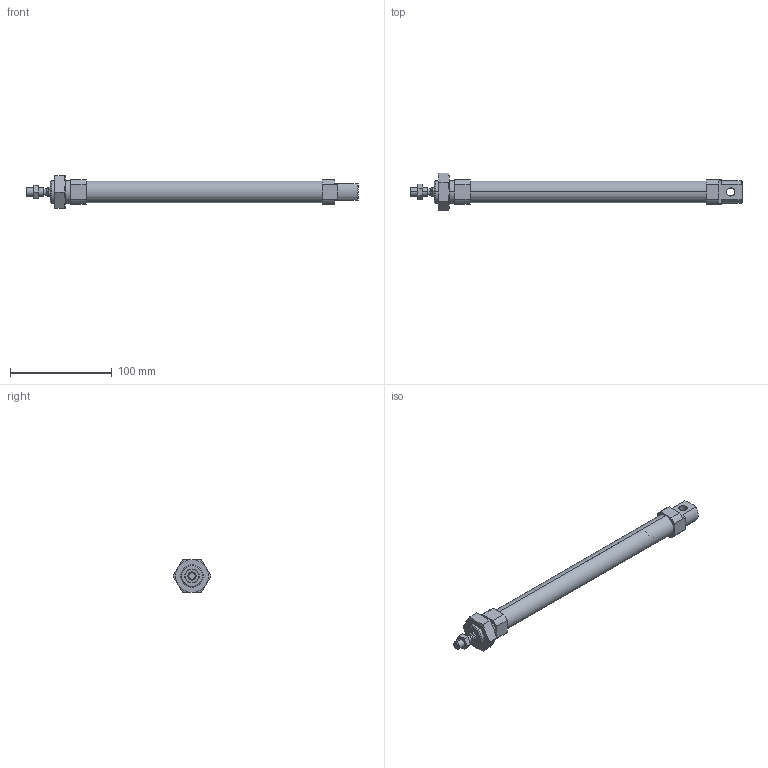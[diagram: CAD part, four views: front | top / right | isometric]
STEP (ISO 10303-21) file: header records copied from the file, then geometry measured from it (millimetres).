
FILE_DESCRIPTION (( 'STEP AP203' ), '1' );
FILE_NAME ('CSMK20-200.STEP', '2020-04-02T10:49:17', ( '' ), ( '' ), 'SwSTEP 2.0', 'SolidWorks 2019', '' );
FILE_SCHEMA (( 'CONFIG_CONTROL_DESIGN' ));
Length unit declared in the file: millimetre
Products named in the file (1): CSMK20-200
Bounding box: 326 x 36.95 x 32 mm (x, y, z)
Volume: 69591.8 mm3; surface area: 49039.1 mm2
Topology: 4 solids, 4 shells, 133 faces, 306 edges, 187 vertices
Faces by surface type: plane 53, cone 48, cylinder 32
Entity records: 4251 total; most frequent: CARTESIAN_POINT 1191, DIRECTION 626, ORIENTED_EDGE 608, EDGE_CURVE 304, AXIS2_PLACEMENT_3D 246, VERTEX_POINT 187, EDGE_LOOP 149, VECTOR 134
